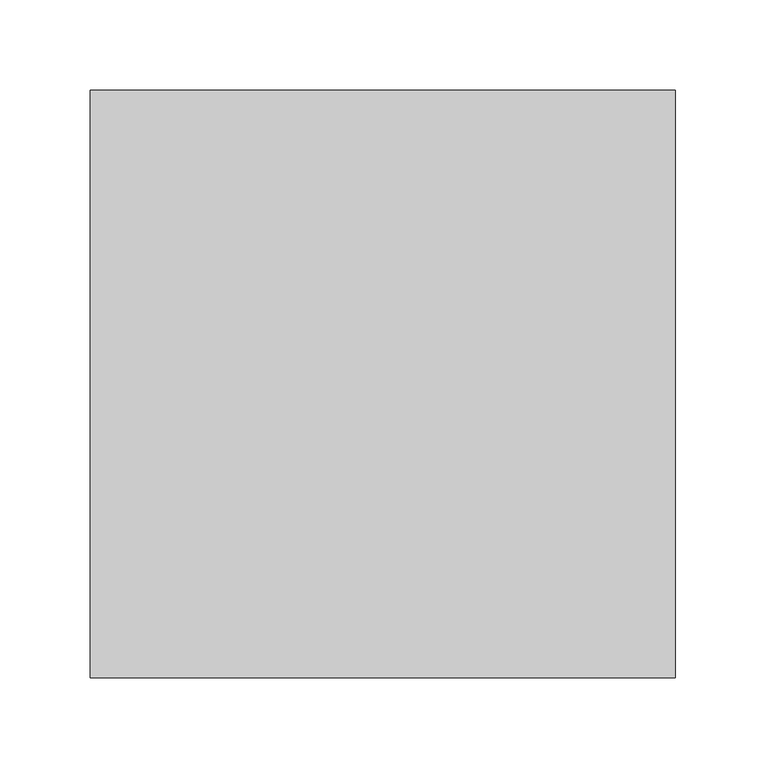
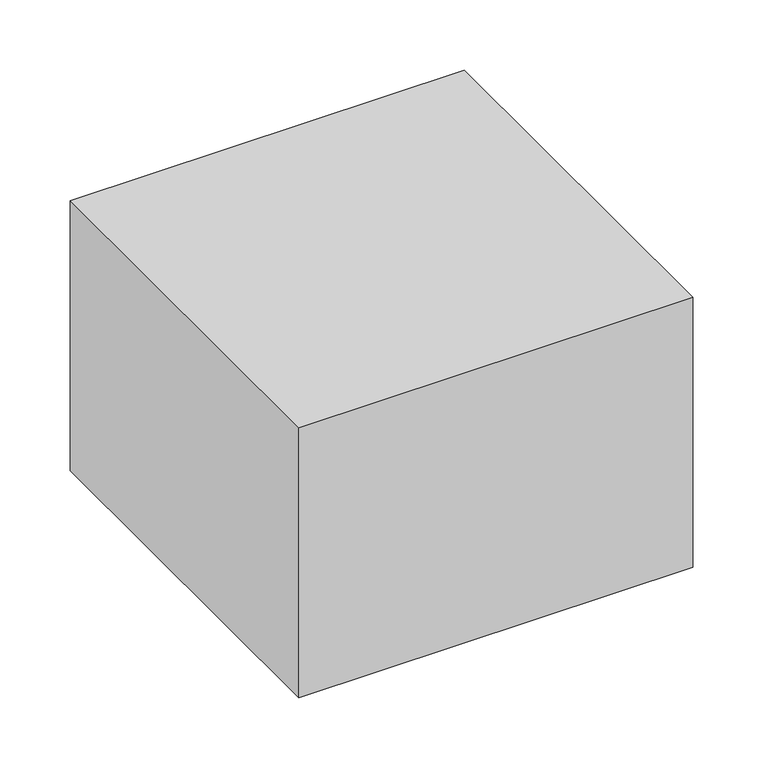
"""IFC4 building model written with IfcOpenShell, lengths in millimetres: column geometry, Column Encasement6 : Column Encasement."""

import ifcopenshell
import ifcopenshell.guid

model = None  # the IFC model being written
_history = None  # IfcOwnerHistory: only IFC2X3 demands one
_inside = {}  # id of a spatial element -> (the spatial element, [elements in it])
_under = {}  # id of a project, library or spatial element -> (it, [spatial elements below it])
_declared = {}  # id of a project -> (the project, [libraries it declares])
_typed = {}  # id of a type object -> (the type object, [elements of that type])
_made_of = {}  # id of a material, layer set ... -> (it, [elements and type objects made of it])


def new_model(schema):
    """Start an empty IFC model of exactly this schema.

    Asked for "IFC4X3", IfcOpenShell would pick the latest addendum, in which some entities
    have other attributes; the version numbers below select the first issue.
    IFC2X3 requires an IfcOwnerHistory on every rooted entity: one is made here for all.
    """
    global model, _history
    if schema == "IFC4X3":
        model = ifcopenshell.file(schema_version=(4, 3, 0, 0))
    else:
        model = ifcopenshell.file(schema=schema)
    _inside.clear()
    _under.clear()
    _declared.clear()
    _typed.clear()
    _made_of.clear()
    _history = None
    if model.schema == "IFC2X3":
        org = make("IfcOrganization", Name="unknown")
        user = make(
            "IfcPersonAndOrganization",
            ThePerson=make("IfcPerson", FamilyName="unknown"),
            TheOrganization=org,
        )
        app = make(
            "IfcApplication",
            ApplicationDeveloper=org,
            Version="unknown",
            ApplicationFullName="unknown",
            ApplicationIdentifier="unknown",
        )
        _history = make(
            "IfcOwnerHistory",
            OwningUser=user,
            OwningApplication=app,
            ChangeAction="ADDED",
            CreationDate=0,
        )
    return model


def make(cls, **values):
    """One entity of the class cls with the attributes given. An attribute that is None is left unset."""
    return model.create_entity(
        cls, **{name: value for name, value in values.items() if value is not None}
    )


def rooted(cls, **values):
    """An entity with a GlobalId (a new one), such as an element, a storey or a relation."""
    return make(cls, GlobalId=ifcopenshell.guid.new(), OwnerHistory=_history, **values)


def si_unit(unit_type, name, prefix=None):
    """IfcSIUnit, for example si_unit("LENGTHUNIT", "METRE", prefix="MILLI")."""
    return make("IfcSIUnit", UnitType=unit_type, Prefix=prefix, Name=name)


def assignment(units):
    """IfcUnitAssignment: the units of a project."""
    return None if units is None else make("IfcUnitAssignment", Units=units)


def point(xyz):
    """IfcCartesianPoint."""
    return None if xyz is None else make("IfcCartesianPoint", Coordinates=xyz)


def direction(xyz):
    """IfcDirection."""
    return None if xyz is None else make("IfcDirection", DirectionRatios=xyz)


def frame(location, z_axis=None, x_axis=None):
    """IfcAxis2Placement3D, a coordinate frame: its origin and axes. An axis left out is left unset."""
    return make(
        "IfcAxis2Placement3D",
        Location=point(location),
        Axis=direction(z_axis),
        RefDirection=direction(x_axis),
    )


def origin():
    """The frame at (0, 0, 0) with its axes left unset."""
    return frame((0.0, 0.0, 0.0))


def place(relative_to, where):
    """IfcLocalPlacement: puts the frame where relative to a parent placement (None: the world)."""
    return make(
        "IfcLocalPlacement", PlacementRelTo=relative_to, RelativePlacement=where
    )


def context(
    kind, dimensions, precision=None, world=None, true_north=None, identifier=None
):
    """IfcGeometricRepresentationContext, for example the 3D "Model" context."""
    return make(
        "IfcGeometricRepresentationContext",
        ContextIdentifier=identifier,
        ContextType=kind,
        CoordinateSpaceDimension=dimensions,
        Precision=precision,
        WorldCoordinateSystem=world,
        TrueNorth=true_north,
    )


def project(units=None, contexts=None):
    """IfcProject with its units and contexts."""
    return rooted(
        "IfcProject",
        Name="project",
        RepresentationContexts=contexts,
        UnitsInContext=assignment(units),
    )


def spatial(cls, under=None, at=None, **own):
    """A site, building, storey or space (cls), placed at a placement, below another one or the project."""
    s = rooted(cls, ObjectPlacement=at, **own)
    if under is not None:
        _under.setdefault(under.id(), (under, []))[1].append(s)
    return s


def polyline(points):
    """IfcPolyline through the points."""
    return make("IfcPolyline", Points=[point(p) for p in points])


def outline(outer, holes=None, kind="AREA"):
    """IfcArbitraryClosedProfileDef: a profile drawn as a closed curve; with holes, ...WithVoids."""
    if holes is None:
        return make("IfcArbitraryClosedProfileDef", ProfileType=kind, OuterCurve=outer)
    return make(
        "IfcArbitraryProfileDefWithVoids",
        ProfileType=kind,
        OuterCurve=outer,
        InnerCurves=holes,
    )


def extrude(swept, where, along, depth):
    """IfcExtrudedAreaSolid: the profile swept, set in the frame where, extruded along a direction by depth."""
    return make(
        "IfcExtrudedAreaSolid",
        SweptArea=swept,
        Position=where,
        ExtrudedDirection=direction(along),
        Depth=depth,
    )


def shape(context_of_items, identifier, shape_type, items):
    """IfcShapeRepresentation: the items that make up one representation, for example the "Body"."""
    return make(
        "IfcShapeRepresentation",
        ContextOfItems=context_of_items,
        RepresentationIdentifier=identifier,
        RepresentationType=shape_type,
        Items=items,
    )


def source(mapping_origin, context_of_items, identifier, shape_type, items):
    """IfcRepresentationMap: a shape defined once, which mapped items show again and again."""
    return make(
        "IfcRepresentationMap",
        MappingOrigin=mapping_origin,
        MappedRepresentation=shape(context_of_items, identifier, shape_type, items),
    )


def transform(
    local_origin,
    x_axis=None,
    y_axis=None,
    z_axis=None,
    scale=None,
    scale2=None,
    scale3=None,
    uniform=True,
):
    """IfcCartesianTransformationOperator3D, or its non-uniform kind. x_axis, y_axis, z_axis: its Axis1, 2, 3."""
    if uniform:
        return make(
            "IfcCartesianTransformationOperator3D",
            Axis1=direction(x_axis),
            Axis2=direction(y_axis),
            LocalOrigin=point(local_origin),
            Scale=scale,
            Axis3=direction(z_axis),
        )
    return make(
        "IfcCartesianTransformationOperator3DnonUniform",
        Axis1=direction(x_axis),
        Axis2=direction(y_axis),
        LocalOrigin=point(local_origin),
        Scale=scale,
        Axis3=direction(z_axis),
        Scale2=scale2,
        Scale3=scale3,
    )


def mapped(mapping_source, mapping_target):
    """IfcMappedItem: shows the shape of a source again, moved by a transform."""
    return make(
        "IfcMappedItem", MappingSource=mapping_source, MappingTarget=mapping_target
    )


def made_of(thing, what):
    """Note that an element or type object is made of a material, layer set ...; save() writes the relation."""
    if what is not None:
        _made_of.setdefault(what.id(), (what, []))[1].append(thing)
    return thing


def element(
    cls,
    number,
    at=None,
    inside=None,
    cuts=None,
    type_object=None,
    material=None,
    context=None,
    identifier="Body",
    shape_type=None,
    held_by="IfcProductDefinitionShape",
    body=None,
    shapes=None,
    **own,
):
    """One element of the class cls, such as IfcWall. Its Tag is "e" and its number.

    at: its placement. inside: the storey or other place that contains it. cuts: it is an
    opening in that element (IfcRelVoidsElement). A single representation is given by context,
    identifier, shape_type and body (its items); several are given by shapes. held_by: the class
    of the entity that holds the representations. save() writes the other relations.
    """
    e = rooted(cls, Tag="e%d" % number, ObjectPlacement=at, **own)
    if body is not None:
        shapes = [shape(context, identifier, shape_type, body)]
    if shapes is not None:
        e.Representation = make(held_by, Representations=shapes)
    if inside is not None:
        _inside.setdefault(inside.id(), (inside, []))[1].append(e)
    if cuts is not None:
        rooted(
            "IfcRelVoidsElement", RelatingBuildingElement=cuts, RelatedOpeningElement=e
        )
    if type_object is not None:
        _typed.setdefault(type_object.id(), (type_object, []))[1].append(e)
    return made_of(e, material)


def aggregate(whole, parts):
    """IfcRelAggregates: a whole, such as a stair, and the parts it consists of."""
    return rooted("IfcRelAggregates", RelatingObject=whole, RelatedObjects=parts)


def save(model, path):
    """Write the relations noted so far, then the file.

    IfcRelAggregates (storeys below a building ...), IfcRelContainedInSpatialStructure (elements
    in a storey), IfcRelDefinesByType, IfcRelAssociatesMaterial and IfcRelDeclares: one each for
    every whole, place, type object, material and project.
    """
    for whole, parts in _under.values():
        aggregate(whole, parts)
    for where, things in _inside.values():
        rooted(
            "IfcRelContainedInSpatialStructure",
            RelatedElements=things,
            RelatingStructure=where,
        )
    for kind, things in _typed.values():
        rooted("IfcRelDefinesByType", RelatedObjects=things, RelatingType=kind)
    for what, things in _made_of.values():
        rooted("IfcRelAssociatesMaterial", RelatedObjects=things, RelatingMaterial=what)
    for by, libraries in _declared.values():
        rooted("IfcRelDeclares", RelatingContext=by, RelatedDefinitions=libraries)
    model.write(path)


def column_7c1e64be(model_context):
    return source(origin(), model_context, "Body", "SweptSolid", [
        extrude(outline(polyline([(-29254.1090062, 9578.0975181), (-29254.1090062, 9903.7503001), (-28929.7652152, 9903.7503001), (-28929.7652152, 9578.0975181), (-29254.1090062, 9578.0975181)])), frame((0.0, 0.0, 7.0), z_axis=(0.0, 0.0, 1.0), x_axis=(1.0, 0.0, 0.0)), (0.0, 0.0, 1.0), 235.0),
    ])


if __name__ == "__main__":
    model = new_model("IFC4")
    model_context = context("Model", 3, world=origin())
    ifc_project = project(units=[si_unit("LENGTHUNIT", "METRE", prefix="MILLI")], contexts=[model_context])
    site = spatial("IfcSite", under=ifc_project)
    building = spatial("IfcBuilding", under=site)
    placement = place(None, origin())
    column_shape = column_7c1e64be(model_context)
    element("IfcColumn", 1, ObjectType="Column Encasement6 : Column Encasement", at=placement, inside=building, context=model_context, shape_type="MappedRepresentation", body=[
        mapped(column_shape, transform((0.0, 0.0, 0.0), x_axis=(1.0, 0.0, 0.0), y_axis=(0.0, 1.0, 0.0), z_axis=(0.0, 0.0, 1.0))),
    ])
    save(model, "model.ifc")
